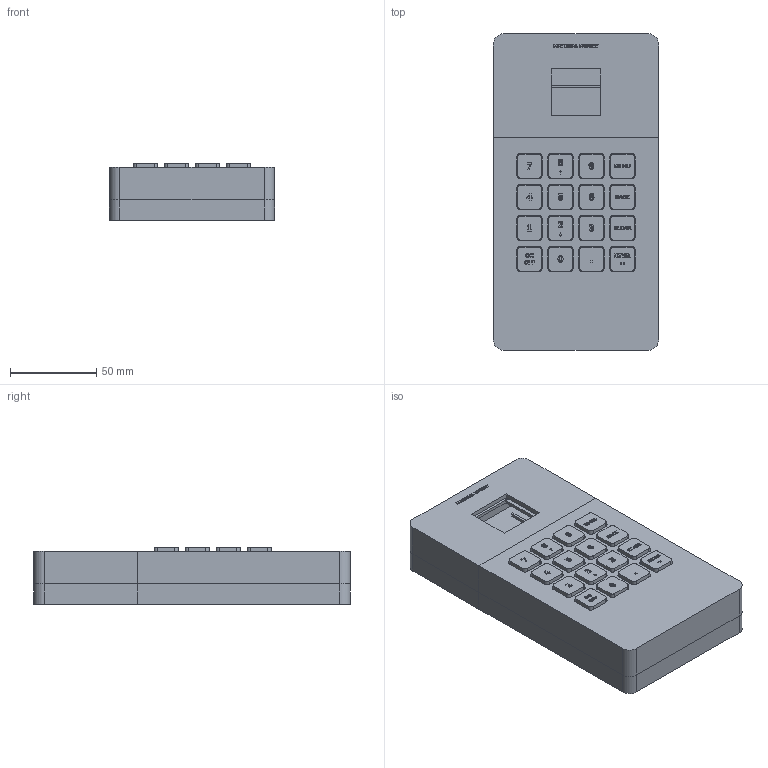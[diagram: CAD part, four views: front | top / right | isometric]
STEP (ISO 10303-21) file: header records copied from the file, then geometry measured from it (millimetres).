
FILE_DESCRIPTION(('Open CASCADE Model'),'2;1');
FILE_NAME('Open CASCADE Shape Model','2026-10-27T12:51:50',('Author'),( 'Open CASCADE'),'Open CASCADE STEP processor 7.8','Open CASCADE 7.8' ,'Unknown');
FILE_SCHEMA(('AUTOMOTIVE_DESIGN { 1 0 10303 214 1 1 1 1 }'));
Length unit declared in the file: millimetre
Products named in the file (27): material_weight_calculator_r1; battery_cover; keypad_backing; keypad_guide; display_cradle; display_clamp_left; display_clamp_right; button_r1c1_7; button_r1c2_8; button_r1c3_9; button_r1c4_menu; button_r2c1_4; button_r2c2_5; button_r2c3_6; button_r2c4_back; button_r3c1_1; button_r3c2_2; button_r3c3_3; button_r3c4_clear; button_r4c1_on; button_r4c2_0; button_r4c3_decimal; button_r4c4_enter; mars_front_upper; mars_front_lower; mars_rear_upper; mars_rear_lower
Assembly tree (26 placements, depth 2):
  material_weight_calculator_r1
    battery_cover
    keypad_backing
    keypad_guide
    display_cradle
    display_clamp_left
    display_clamp_right
    button_r1c1_7
    button_r1c2_8
    button_r1c3_9
    button_r1c4_menu
    button_r2c1_4
    button_r2c2_5
    button_r2c3_6
    button_r2c4_back
    button_r3c1_1
    button_r3c2_2
    button_r3c3_3
    button_r3c4_clear
    button_r4c1_on
    button_r4c2_0
    button_r4c3_decimal
    button_r4c4_enter
    mars_front_upper
    mars_front_lower
    mars_rear_upper
    mars_rear_lower
Bounding box: 96 x 184 x 33 mm (x, y, z)
Volume: 168610.3 mm3; surface area: 160592 mm2
Topology: 26 solids, 26 shells, 2225 faces, 6000 edges, 4000 vertices
Faces by surface type: plane 1453, cylinder 460, extrusion 312
Full cylindrical faces by diameter (mm): 2.9 x28, 5.2 x4, 5.6 x4, 6.4 x4, 6.6 x8, 6.8 x2, 8 x4
Entity records: 152872 total; most frequent: CARTESIAN_POINT 37771, DIRECTION 18915, VECTOR 12552, LINE 12240, ORIENTED_EDGE 12000, PCURVE 12000, DEFINITIONAL_REPRESENTATION 12000, EDGE_CURVE 6000
